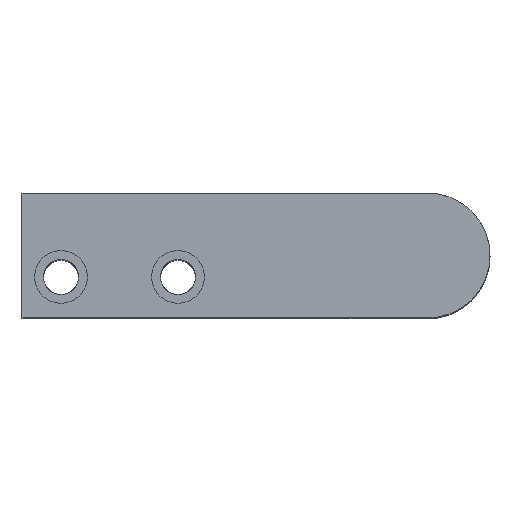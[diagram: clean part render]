
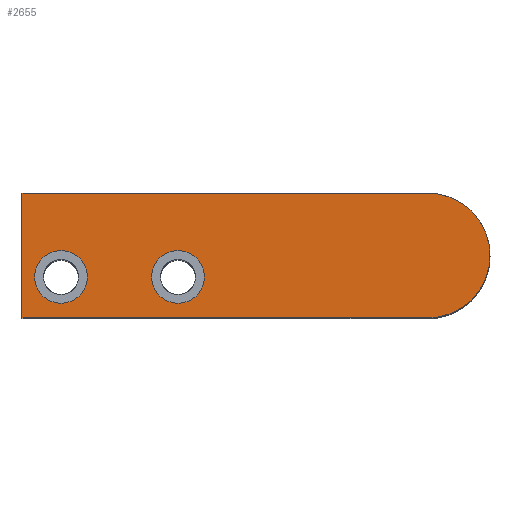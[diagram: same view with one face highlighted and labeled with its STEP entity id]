
A CAD part, top view. The second image highlights one B-rep face of the part: STEP entity #2655.
In plain terms, the highlighted planar face has unit normal (0, 0, 1) as drawn and (0, 0, -1) by its records, which use the part's own axes.
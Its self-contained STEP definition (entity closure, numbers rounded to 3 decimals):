
#52 = CARTESIAN_POINT ( 'NONE',  ( 104., -16., -5. ) ) ;
#125 = VECTOR ( 'NONE', #4046, 1000. ) ;
#179 = DIRECTION ( 'NONE',  ( 1., 0., 0. ) ) ;
#195 = EDGE_CURVE ( 'NONE', #242, #3739, #2040, .T. ) ;
#242 = VERTEX_POINT ( 'NONE', #3672 ) ;
#272 = EDGE_CURVE ( 'NONE', #3739, #1194, #977, .T. ) ;
#330 = EDGE_CURVE ( 'NONE', #852, #3461, #3817, .T. ) ;
#389 = LINE ( 'NONE', #4715, #1442 ) ;
#450 = AXIS2_PLACEMENT_3D ( 'NONE', #3823, #884, #1696 ) ;
#457 = DIRECTION ( 'NONE',  ( -1., 0., 0. ) ) ;
#461 = CIRCLE ( 'NONE', #1988, 16. ) ;
#538 = EDGE_CURVE ( 'NONE', #1194, #1186, #389, .T. ) ;
#551 = EDGE_CURVE ( 'NONE', #4524, #242, #3630, .T. ) ;
#608 = AXIS2_PLACEMENT_3D ( 'NONE', #4614, #4690, #1737 ) ;
#828 = CIRCLE ( 'NONE', #4298, 6.75 ) ;
#852 = VERTEX_POINT ( 'NONE', #4639 ) ;
#872 = DIRECTION ( 'NONE',  ( 1., 0., 0. ) ) ;
#878 = CARTESIAN_POINT ( 'NONE',  ( 100.75, -5.5, -5. ) ) ;
#883 = CARTESIAN_POINT ( 'NONE',  ( 0., 0., -5. ) ) ;
#884 = DIRECTION ( 'NONE',  ( 0., 0., -1. ) ) ;
#894 = DIRECTION ( 'NONE',  ( 0., 0., 1. ) ) ;
#977 = LINE ( 'NONE', #4934, #125 ) ;
#1099 = VERTEX_POINT ( 'NONE', #878 ) ;
#1155 = CARTESIAN_POINT ( 'NONE',  ( 64., -5.5, -5. ) ) ;
#1186 = VERTEX_POINT ( 'NONE', #3559 ) ;
#1194 = VERTEX_POINT ( 'NONE', #5164 ) ;
#1213 = FACE_BOUND ( 'NONE', #4823, .T. ) ;
#1322 = ORIENTED_EDGE ( 'NONE', *, *, #551, .F. ) ;
#1330 = CARTESIAN_POINT ( 'NONE',  ( 0., 0., -5. ) ) ;
#1442 = VECTOR ( 'NONE', #457, 1000. ) ;
#1506 = ORIENTED_EDGE ( 'NONE', *, *, #4091, .F. ) ;
#1591 = ORIENTED_EDGE ( 'NONE', *, *, #1968, .F. ) ;
#1696 = DIRECTION ( 'NONE',  ( -1., 0., 0. ) ) ;
#1737 = DIRECTION ( 'NONE',  ( -1., 0., 0. ) ) ;
#1919 = VECTOR ( 'NONE', #5269, 1000. ) ;
#1968 = EDGE_CURVE ( 'NONE', #1099, #4041, #828, .T. ) ;
#1988 = AXIS2_PLACEMENT_3D ( 'NONE', #883, #5460, #5064 ) ;
#2040 = LINE ( 'NONE', #4846, #1919 ) ;
#2162 = ORIENTED_EDGE ( 'NONE', *, *, #2175, .F. ) ;
#2175 = EDGE_CURVE ( 'NONE', #3461, #852, #3736, .T. ) ;
#2190 = DIRECTION ( 'NONE',  ( 0., 0., 1. ) ) ;
#2580 = CIRCLE ( 'NONE', #608, 6.75 ) ;
#2589 = EDGE_LOOP ( 'NONE', ( #4590, #4628, #4486, #5266, #1322 ) ) ;
#2634 = CARTESIAN_POINT ( 'NONE',  ( 0., 0., -5. ) ) ;
#2655 = ADVANCED_FACE ( 'NONE', ( #3022, #1213, #4322 ), #4208, .F. ) ;
#2805 = AXIS2_PLACEMENT_3D ( 'NONE', #1155, #4496, #5352 ) ;
#3022 = FACE_BOUND ( 'NONE', #5195, .T. ) ;
#3201 = CARTESIAN_POINT ( 'NONE',  ( 87.25, -5.5, -5. ) ) ;
#3211 = CARTESIAN_POINT ( 'NONE',  ( 94., -5.5, -5. ) ) ;
#3461 = VERTEX_POINT ( 'NONE', #5274 ) ;
#3559 = CARTESIAN_POINT ( 'NONE',  ( 0., 16., -5. ) ) ;
#3630 = CIRCLE ( 'NONE', #4009, 16. ) ;
#3672 = CARTESIAN_POINT ( 'NONE',  ( 0., -16., -5. ) ) ;
#3697 = EDGE_CURVE ( 'NONE', #1186, #4524, #461, .T. ) ;
#3736 = CIRCLE ( 'NONE', #450, 6.75 ) ;
#3739 = VERTEX_POINT ( 'NONE', #52 ) ;
#3817 = CIRCLE ( 'NONE', #2805, 6.75 ) ;
#3823 = CARTESIAN_POINT ( 'NONE',  ( 64., -5.5, -5. ) ) ;
#4009 = AXIS2_PLACEMENT_3D ( 'NONE', #1330, #2190, #872 ) ;
#4026 = DIRECTION ( 'NONE',  ( 0., 0., -1. ) ) ;
#4041 = VERTEX_POINT ( 'NONE', #3201 ) ;
#4046 = DIRECTION ( 'NONE',  ( 0., 1., 0. ) ) ;
#4054 = DIRECTION ( 'NONE',  ( -1., 0., 0. ) ) ;
#4091 = EDGE_CURVE ( 'NONE', #4041, #1099, #2580, .T. ) ;
#4172 = ORIENTED_EDGE ( 'NONE', *, *, #330, .F. ) ;
#4208 = PLANE ( 'NONE',  #5202 ) ;
#4298 = AXIS2_PLACEMENT_3D ( 'NONE', #3211, #4026, #4054 ) ;
#4322 = FACE_OUTER_BOUND ( 'NONE', #2589, .T. ) ;
#4486 = ORIENTED_EDGE ( 'NONE', *, *, #272, .F. ) ;
#4496 = DIRECTION ( 'NONE',  ( 0., 0., -1. ) ) ;
#4524 = VERTEX_POINT ( 'NONE', #5188 ) ;
#4590 = ORIENTED_EDGE ( 'NONE', *, *, #3697, .F. ) ;
#4614 = CARTESIAN_POINT ( 'NONE',  ( 94., -5.5, -5. ) ) ;
#4628 = ORIENTED_EDGE ( 'NONE', *, *, #538, .F. ) ;
#4639 = CARTESIAN_POINT ( 'NONE',  ( 57.25, -5.5, -5. ) ) ;
#4690 = DIRECTION ( 'NONE',  ( 0., 0., -1. ) ) ;
#4715 = CARTESIAN_POINT ( 'NONE',  ( 0., 16., -5. ) ) ;
#4823 = EDGE_LOOP ( 'NONE', ( #4172, #2162 ) ) ;
#4846 = CARTESIAN_POINT ( 'NONE',  ( 104., -16., -5. ) ) ;
#4934 = CARTESIAN_POINT ( 'NONE',  ( 104., 16., -5. ) ) ;
#5064 = DIRECTION ( 'NONE',  ( 1., 0., 0. ) ) ;
#5164 = CARTESIAN_POINT ( 'NONE',  ( 104., 16., -5. ) ) ;
#5188 = CARTESIAN_POINT ( 'NONE',  ( -16., 0., -5. ) ) ;
#5195 = EDGE_LOOP ( 'NONE', ( #1506, #1591 ) ) ;
#5202 = AXIS2_PLACEMENT_3D ( 'NONE', #2634, #894, #179 ) ;
#5266 = ORIENTED_EDGE ( 'NONE', *, *, #195, .F. ) ;
#5269 = DIRECTION ( 'NONE',  ( 1., 0., 0. ) ) ;
#5274 = CARTESIAN_POINT ( 'NONE',  ( 70.75, -5.5, -5. ) ) ;
#5352 = DIRECTION ( 'NONE',  ( -1., 0., 0. ) ) ;
#5460 = DIRECTION ( 'NONE',  ( 0., 0., 1. ) ) ;
